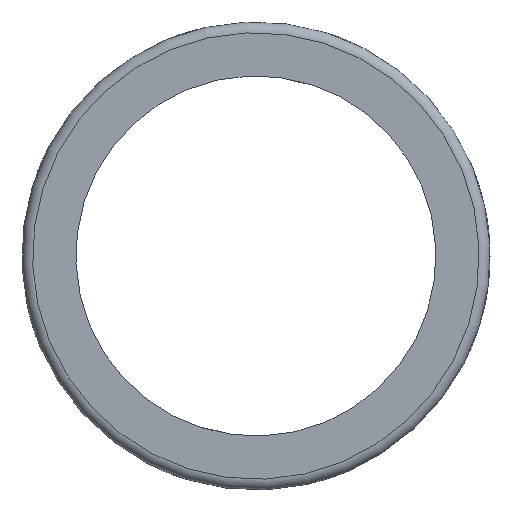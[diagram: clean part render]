
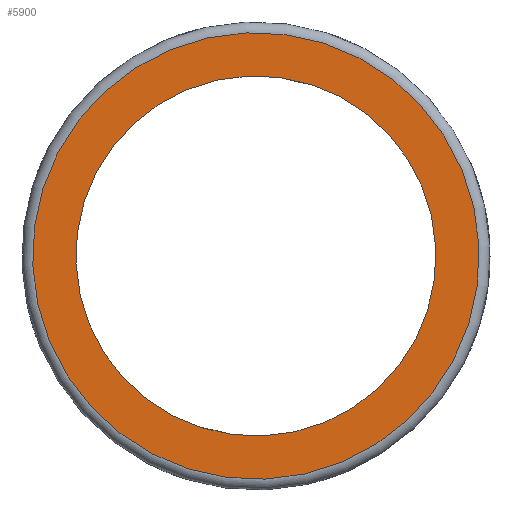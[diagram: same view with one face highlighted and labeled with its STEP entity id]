
A CAD part, left-side view. The second image highlights one B-rep face of the part: STEP entity #5900.
In plain terms, the highlighted planar face has unit normal (-1, 0, 0).
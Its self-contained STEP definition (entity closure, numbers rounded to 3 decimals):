
#120=PLANE('',#6345);
#1380=CIRCLE('',#6342,20.);
#1382=CIRCLE('',#6346,24.8);
#1776=ORIENTED_EDGE('',*,*,#3553,.T.);
#1777=ORIENTED_EDGE('',*,*,#3535,.T.);
#3535=EDGE_CURVE('',#4424,#4424,#1380,.T.);
#3553=EDGE_CURVE('',#4442,#4442,#1382,.F.);
#4424=VERTEX_POINT('',#9283);
#4442=VERTEX_POINT('',#9353);
#5019=EDGE_LOOP('',(#1776));
#5020=EDGE_LOOP('',(#1777));
#5453=FACE_BOUND('',#5019,.T.);
#5454=FACE_BOUND('',#5020,.T.);
#5900=ADVANCED_FACE('',(#5453,#5454),#120,.F.);
#6342=AXIS2_PLACEMENT_3D('',#9282,#6951,#6952);
#6345=AXIS2_PLACEMENT_3D('',#9351,#6965,#6966);
#6346=AXIS2_PLACEMENT_3D('',#9352,#6967,#6968);
#6951=DIRECTION('',(1.,0.,0.));
#6952=DIRECTION('',(0.,0.462,-0.887));
#6965=DIRECTION('',(1.,0.,0.));
#6966=DIRECTION('',(0.,0.462,-0.887));
#6967=DIRECTION('',(1.,0.,0.));
#6968=DIRECTION('',(0.,0.462,-0.887));
#9282=CARTESIAN_POINT('',(-30.,0.,0.));
#9283=CARTESIAN_POINT('',(-30.,9.235,-17.74));
#9351=CARTESIAN_POINT('',(-30.,0.,0.));
#9352=CARTESIAN_POINT('',(-30.,0.,0.));
#9353=CARTESIAN_POINT('',(-30.,11.451,-21.998));
